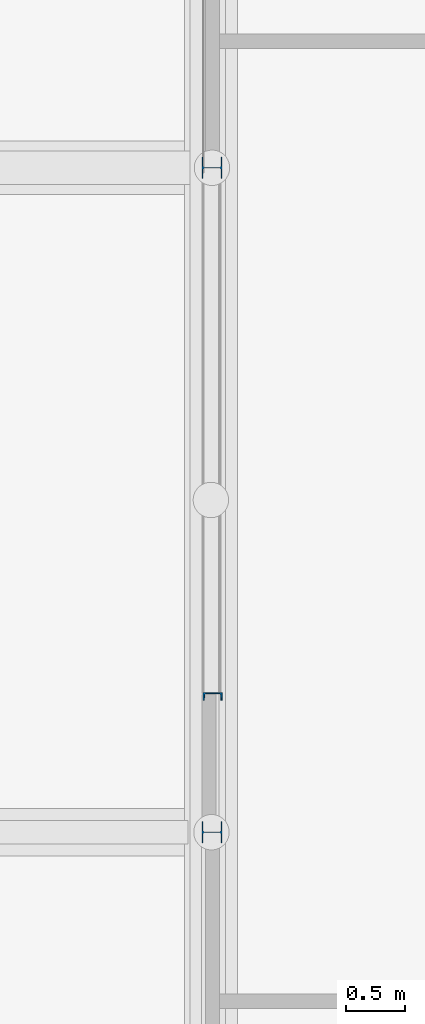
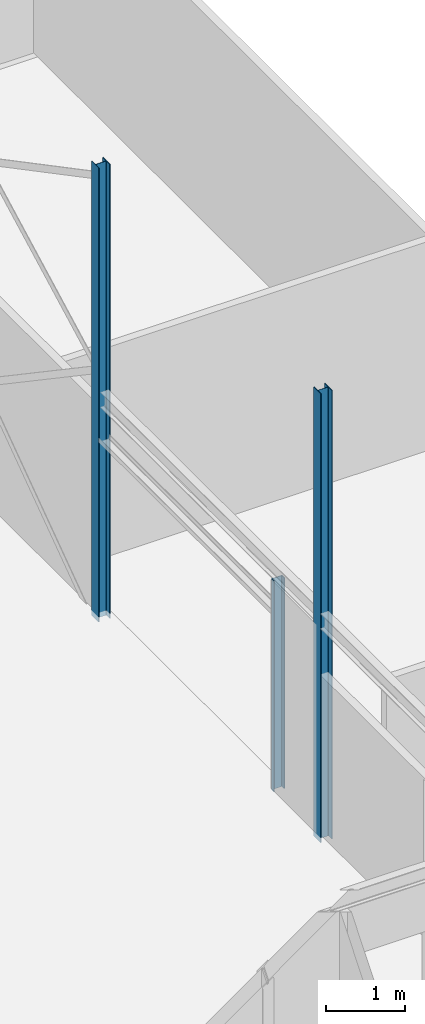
# One storey, part 6 of 17: 3 columns.
"""IFC2X3 building model written with IfcOpenShell, lengths in millimetres."""

from ifc_helpers import new_model, entity, si_unit, converted_unit, derived_unit, direction, frame, frame_2d, origin, place, context, subcontext, project, spatial, polyline, circle_curve, parameter, trimmed, segment, composite_curve, outline, extrude, source, transform, mapped, material, type_object, type_shapes, element, save


model = new_model("IFC2X3")

# Units and contexts
model_context = context("Model", 3, precision=0.01, world=origin(), true_north=direction((6.123031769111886e-17, 1.0)))
plan_context = context("Plan", 3, precision=0.01, world=origin(), true_north=direction((6.123031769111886e-17, 1.0)))
body_context = subcontext(model_context, "Body", "Model", "MODEL_VIEW")
ifc_project = project(units=[si_unit("LENGTHUNIT", "METRE", prefix="MILLI"), si_unit("AREAUNIT", "SQUARE_METRE"), si_unit("VOLUMEUNIT", "CUBIC_METRE"), converted_unit("PLANEANGLEUNIT", "DEGREE", entity("IfcPlaneAngleMeasure", 0.017453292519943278), si_unit("PLANEANGLEUNIT", "RADIAN"), dimensions=[0, 0, 0, 0, 0, 0, 0]), si_unit("MASSUNIT", "GRAM", prefix="KILO"), derived_unit("MASSDENSITYUNIT", [(si_unit("MASSUNIT", "GRAM", prefix="KILO"), 1), (si_unit("LENGTHUNIT", "METRE"), -3)]), derived_unit("IONCONCENTRATIONUNIT", [(si_unit("MASSUNIT", "GRAM", prefix="KILO"), 1), (si_unit("LENGTHUNIT", "METRE"), -3)]), derived_unit("MOMENTOFINERTIAUNIT", [(si_unit("LENGTHUNIT", "METRE"), 4)]), si_unit("TIMEUNIT", "SECOND"), si_unit("FREQUENCYUNIT", "HERTZ"), si_unit("THERMODYNAMICTEMPERATUREUNIT", "DEGREE_CELSIUS"), derived_unit("THERMALTRANSMITTANCEUNIT", [(si_unit("MASSUNIT", "GRAM", prefix="KILO"), 1), (si_unit("THERMODYNAMICTEMPERATUREUNIT", "KELVIN"), -1), (si_unit("TIMEUNIT", "SECOND"), -3)]), derived_unit("THERMALCONDUCTANCEUNIT", [(si_unit("MASSUNIT", "GRAM", prefix="KILO"), 1), (si_unit("THERMODYNAMICTEMPERATUREUNIT", "KELVIN"), -1), (si_unit("TIMEUNIT", "SECOND"), -3), (si_unit("LENGTHUNIT", "METRE"), 1)]), derived_unit("VOLUMETRICFLOWRATEUNIT", [(si_unit("LENGTHUNIT", "METRE", prefix="DECI"), 3), (si_unit("TIMEUNIT", "SECOND"), -1)]), derived_unit("MASSFLOWRATEUNIT", [(si_unit("MASSUNIT", "GRAM", prefix="KILO"), 1), (si_unit("TIMEUNIT", "SECOND"), -1)]), derived_unit("ROTATIONALFREQUENCYUNIT", [(si_unit("TIMEUNIT", "SECOND"), -1)]), si_unit("ELECTRICCURRENTUNIT", "AMPERE"), si_unit("ELECTRICVOLTAGEUNIT", "VOLT"), si_unit("POWERUNIT", "WATT"), si_unit("FORCEUNIT", "NEWTON", prefix="KILO"), si_unit("ILLUMINANCEUNIT", "LUX"), si_unit("LUMINOUSFLUXUNIT", "LUMEN"), si_unit("LUMINOUSINTENSITYUNIT", "CANDELA"), si_unit("ENERGYUNIT", "JOULE"), derived_unit("USERDEFINED", [(si_unit("MASSUNIT", "GRAM", prefix="KILO"), -1), (si_unit("LENGTHUNIT", "METRE"), -2), (si_unit("TIMEUNIT", "SECOND"), 3), (si_unit("LUMINOUSFLUXUNIT", "LUMEN"), 1)]), derived_unit("USERDEFINED", [(si_unit("MASSUNIT", "GRAM", prefix="KILO"), 1), (si_unit("TIMEUNIT", "SECOND"), -3), (si_unit("LENGTHUNIT", "METRE"), 3), (si_unit("ELECTRICCURRENTUNIT", "AMPERE"), -2)]), derived_unit("SOUNDPOWERUNIT", [(si_unit("MASSUNIT", "GRAM", prefix="KILO"), 1), (si_unit("TIMEUNIT", "SECOND"), -3), (si_unit("LENGTHUNIT", "METRE"), 2)]), derived_unit("SOUNDPRESSUREUNIT", [(si_unit("MASSUNIT", "GRAM", prefix="KILO"), 1), (si_unit("LENGTHUNIT", "METRE"), -1), (si_unit("TIMEUNIT", "SECOND"), -2)]), derived_unit("LINEARVELOCITYUNIT", [(si_unit("LENGTHUNIT", "METRE"), 1), (si_unit("TIMEUNIT", "SECOND"), -1)]), si_unit("PRESSUREUNIT", "PASCAL"), derived_unit("USERDEFINED", [(si_unit("MASSUNIT", "GRAM", prefix="KILO"), 1), (si_unit("LENGTHUNIT", "METRE"), -2), (si_unit("TIMEUNIT", "SECOND"), -2)]), derived_unit("LINEARFORCEUNIT", [(si_unit("MASSUNIT", "GRAM", prefix="KILO"), 1), (si_unit("TIMEUNIT", "SECOND"), -2)]), derived_unit("PLANARFORCEUNIT", [(si_unit("MASSUNIT", "GRAM", prefix="KILO"), 1), (si_unit("LENGTHUNIT", "METRE"), -1), (si_unit("TIMEUNIT", "SECOND"), -2)]), derived_unit("SPECIFICHEATCAPACITYUNIT", [(si_unit("THERMODYNAMICTEMPERATUREUNIT", "KELVIN"), -1), (si_unit("LENGTHUNIT", "METRE"), 2), (si_unit("TIMEUNIT", "SECOND"), -2)]), derived_unit("HEATFLUXDENSITYUNIT", [(si_unit("MASSUNIT", "GRAM", prefix="KILO"), 1), (si_unit("TIMEUNIT", "SECOND"), -3)]), derived_unit("HEATINGVALUEUNIT", [(si_unit("LENGTHUNIT", "METRE"), 2), (si_unit("TIMEUNIT", "SECOND"), -2)]), derived_unit("VAPORPERMEABILITYUNIT", [(si_unit("LENGTHUNIT", "METRE"), -1), (si_unit("TIMEUNIT", "SECOND"), 1)]), derived_unit("DYNAMICVISCOSITYUNIT", [(si_unit("MASSUNIT", "GRAM", prefix="KILO"), 1), (si_unit("TIMEUNIT", "SECOND"), -1), (si_unit("LENGTHUNIT", "METRE"), -1)]), derived_unit("THERMALEXPANSIONCOEFFICIENTUNIT", [(si_unit("THERMODYNAMICTEMPERATUREUNIT", "KELVIN"), -1)]), derived_unit("MODULUSOFELASTICITYUNIT", [(si_unit("MASSUNIT", "GRAM", prefix="KILO"), 1), (si_unit("LENGTHUNIT", "METRE"), -1), (si_unit("TIMEUNIT", "SECOND"), -2)]), derived_unit("ISOTHERMALMOISTURECAPACITYUNIT", [(si_unit("MASSUNIT", "GRAM", prefix="KILO"), -1), (si_unit("LENGTHUNIT", "METRE"), 3)]), derived_unit("MOISTUREDIFFUSIVITYUNIT", [(si_unit("TIMEUNIT", "SECOND"), -1), (si_unit("LENGTHUNIT", "METRE"), 2)]), derived_unit("MASSPERLENGTHUNIT", [(si_unit("MASSUNIT", "GRAM", prefix="KILO"), 1), (si_unit("LENGTHUNIT", "METRE"), -1)]), derived_unit("THERMALRESISTANCEUNIT", [(si_unit("MASSUNIT", "GRAM", prefix="KILO"), -1), (si_unit("TIMEUNIT", "SECOND"), 3), (si_unit("THERMODYNAMICTEMPERATUREUNIT", "KELVIN"), 1)]), derived_unit("ACCELERATIONUNIT", [(si_unit("LENGTHUNIT", "METRE"), 1), (si_unit("TIMEUNIT", "SECOND"), -2)]), derived_unit("ANGULARVELOCITYUNIT", [(si_unit("TIMEUNIT", "SECOND"), -1), (si_unit("PLANEANGLEUNIT", "RADIAN"), 1)]), derived_unit("LINEARSTIFFNESSUNIT", [(si_unit("MASSUNIT", "GRAM", prefix="KILO"), 1), (si_unit("TIMEUNIT", "SECOND"), -2)]), derived_unit("WARPINGCONSTANTUNIT", [(si_unit("LENGTHUNIT", "METRE"), 6)]), derived_unit("LINEARMOMENTUNIT", [(si_unit("MASSUNIT", "GRAM", prefix="KILO"), 1), (si_unit("LENGTHUNIT", "METRE"), 1), (si_unit("TIMEUNIT", "SECOND"), -2)]), derived_unit("TORQUEUNIT", [(si_unit("MASSUNIT", "GRAM", prefix="KILO"), 1), (si_unit("LENGTHUNIT", "METRE"), 2), (si_unit("TIMEUNIT", "SECOND"), -2)])], contexts=[model_context, plan_context])

# Site, building, storey
site_placement = place(None, origin())
site = spatial("IfcSite", under=ifc_project, at=site_placement, Name="Default", CompositionType="ELEMENT")
building_placement = place(site_placement, origin())
building = spatial("IfcBuilding", under=site, at=building_placement, CompositionType="ELEMENT")
storey_placement = place(building_placement, origin())
storey = spatial("IfcBuildingStorey", under=building, at=storey_placement, Name="00 begane grond", CompositionType="ELEMENT", Elevation=0.0)

# Columns
ifc_material = material(Name="constructiestaal S235")
column_type_1 = type_object("IfcColumnType", Name="28_SCO_TLB_HEA kolom_dw:HE180A (S235)", PredefinedType="COLUMN", material=ifc_material)
shared_shape_1 = source(origin(), body_context, "Body", "SweptSolid", [
    extrude(outline(composite_curve([segment(polyline([(-90.0, -76.0), (-90.0, -85.49999999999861)]), True, "CONTINUOUS"), segment(polyline([(-90.0, -85.49999999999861), (90.0, -85.49999999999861)]), True, "CONTINUOUS"), segment(polyline([(90.0, -85.49999999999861), (90.0, -76.0)]), True, "CONTINUOUS"), segment(polyline([(90.0, -76.0), (18.0, -76.0)]), True, "CONTINUOUS"), segment(trimmed(circle_curve(frame_2d((18.0, -61.0), x_axis=(1.0, 0.0)), 15.0), [parameter(180.00000000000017)], [parameter(269.9999999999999)], True, "PARAMETER"), False, "CONTINUOUS"), segment(polyline([(3.0, -61.0), (3.0, 61.0)]), True, "CONTINUOUS"), segment(trimmed(circle_curve(frame_2d((18.0, 61.0), x_axis=(1.0, 0.0)), 15.0), [parameter(90.00000000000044)], [parameter(180.0000000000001)], True, "PARAMETER"), False, "CONTINUOUS"), segment(polyline([(18.0, 76.0), (90.0, 76.0)]), True, "CONTINUOUS"), segment(polyline([(90.0, 76.0), (90.0, 85.49999999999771)]), True, "CONTINUOUS"), segment(polyline([(90.0, 85.49999999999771), (-90.0, 85.49999999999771)]), True, "CONTINUOUS"), segment(polyline([(-90.0, 85.49999999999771), (-90.0, 76.0)]), True, "CONTINUOUS"), segment(polyline([(-90.0, 76.0), (-18.0, 76.0)]), True, "CONTINUOUS"), segment(trimmed(circle_curve(frame_2d((-18.0, 61.0), x_axis=(1.0, 0.0)), 15.0), [parameter(0.0)], [parameter(90.00000000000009)], True, "PARAMETER"), False, "CONTINUOUS"), segment(polyline([(-3.0, 61.0), (-3.0, -61.0)]), True, "CONTINUOUS"), segment(trimmed(circle_curve(frame_2d((-18.0, -61.0), x_axis=(1.0, 0.0)), 15.0), [parameter(269.9999999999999)], [parameter(0.0)], True, "PARAMETER"), False, "CONTINUOUS"), segment(polyline([(-18.0, -76.0), (-90.0, -76.0)]), True, "CONTINUOUS")], self_intersect=False)), frame((0.0, 0.0, -150.0), z_axis=(0.0, 0.0, -1.0), x_axis=(-1.0, 0.0, 0.0)), (0.0, 0.0, -1.0), 6935.0),
])
type_shapes(column_type_1, [shared_shape_1])
column_1_placement = place(storey_placement, frame((50500.69293735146, 21872.670340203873, 0.0), z_axis=(0.0, 0.0, 1.0), x_axis=(0.0, -1.0, 0.0)))
element("IfcColumn", 1, at=column_1_placement, inside=storey, type_object=column_type_1, material=ifc_material, Name="28_SCO_TLB_HEA kolom_dw:HE180A (S235)", ObjectType="28_SCO_TLB_HEA kolom_dw:HE180A (S235)", context=body_context, shape_type="MappedRepresentation", body=[
    mapped(shared_shape_1, transform((0.0, 0.0, 0.0), scale=1.0)),
])
column_type_2 = type_object("IfcColumnType", Name="28_SCO_TLB_HEA kolom_dw:HE180A (S235)", PredefinedType="COLUMN", material=ifc_material)
shared_shape_2 = source(origin(), body_context, "Body", "SweptSolid", [
    extrude(outline(composite_curve([segment(polyline([(-90.0, -76.0), (-90.0, -85.49999999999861)]), True, "CONTINUOUS"), segment(polyline([(-90.0, -85.49999999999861), (90.0, -85.49999999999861)]), True, "CONTINUOUS"), segment(polyline([(90.0, -85.49999999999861), (90.0, -76.0)]), True, "CONTINUOUS"), segment(polyline([(90.0, -76.0), (18.0, -76.0)]), True, "CONTINUOUS"), segment(trimmed(circle_curve(frame_2d((18.0, -61.0), x_axis=(1.0, 0.0)), 15.0), [parameter(180.00000000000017)], [parameter(269.9999999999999)], True, "PARAMETER"), False, "CONTINUOUS"), segment(polyline([(3.0, -61.0), (3.0, 61.0)]), True, "CONTINUOUS"), segment(trimmed(circle_curve(frame_2d((18.0, 61.0), x_axis=(1.0, 0.0)), 15.0), [parameter(90.00000000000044)], [parameter(180.0000000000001)], True, "PARAMETER"), False, "CONTINUOUS"), segment(polyline([(18.0, 76.0), (90.0, 76.0)]), True, "CONTINUOUS"), segment(polyline([(90.0, 76.0), (90.0, 85.49999999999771)]), True, "CONTINUOUS"), segment(polyline([(90.0, 85.49999999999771), (-90.0, 85.49999999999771)]), True, "CONTINUOUS"), segment(polyline([(-90.0, 85.49999999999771), (-90.0, 76.0)]), True, "CONTINUOUS"), segment(polyline([(-90.0, 76.0), (-18.0, 76.0)]), True, "CONTINUOUS"), segment(trimmed(circle_curve(frame_2d((-18.0, 61.0), x_axis=(1.0, 0.0)), 15.0), [parameter(0.0)], [parameter(90.00000000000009)], True, "PARAMETER"), False, "CONTINUOUS"), segment(polyline([(-3.0, 61.0), (-3.0, -61.0)]), True, "CONTINUOUS"), segment(trimmed(circle_curve(frame_2d((-18.0, -61.0), x_axis=(1.0, 0.0)), 15.0), [parameter(269.9999999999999)], [parameter(0.0)], True, "PARAMETER"), False, "CONTINUOUS"), segment(polyline([(-18.0, -76.0), (-90.0, -76.0)]), True, "CONTINUOUS")], self_intersect=False)), frame((0.0, 0.0, -150.0), z_axis=(0.0, 0.0, -1.0), x_axis=(-1.0, 0.0, 0.0)), (0.0, 0.0, -1.0), 7016.999999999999),
])
type_shapes(column_type_2, [shared_shape_2])
column_2_placement = place(storey_placement, frame((50500.692937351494, 27492.67034020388, 0.0), z_axis=(0.0, 0.0, 1.0), x_axis=(0.0, -1.0, 0.0)))
element("IfcColumn", 2, at=column_2_placement, inside=storey, type_object=column_type_2, material=ifc_material, Name="28_SCO_TLB_HEA kolom_dw:HE180A (S235)", ObjectType="28_SCO_TLB_HEA kolom_dw:HE180A (S235)", context=body_context, shape_type="MappedRepresentation", body=[
    mapped(shared_shape_2, transform((0.0, 0.0, 0.0), scale=1.0)),
])
column_type_3 = type_object("IfcColumnType", Name="28_SCO_TLB_UNP kolom_dw:UNP160 (S235)", PredefinedType="COLUMN", material=ifc_material)
shared_shape_3 = source(origin(), body_context, "Body", "SweptSolid", [
    extrude(outline(composite_curve([segment(polyline([(-35.75000000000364, -79.93760274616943), (29.25, -79.93760274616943)]), True, "CONTINUOUS"), segment(polyline([(29.25, -79.93760274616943), (29.25, -75.21770177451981)]), True, "CONTINUOUS"), segment(trimmed(circle_curve(frame_2d((23.749999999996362, -75.21770177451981), x_axis=(1.0, 0.0)), 5.5), [parameter(1.5266662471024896e-13)], [parameter(90.00000000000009)], True, "PARAMETER"), True, "CONTINUOUS"), segment(polyline([(23.749999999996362, -69.71770177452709), (-18.250000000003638, -67.32541273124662)]), True, "CONTINUOUS"), segment(trimmed(circle_curve(frame_2d((-18.250000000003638, -57.325412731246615), x_axis=(1.0, 0.0)), 10.0), [parameter(179.9999999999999)], [parameter(269.99999999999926)], True, "PARAMETER"), False, "CONTINUOUS"), segment(polyline([(-28.25, -57.32541273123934), (-28.249999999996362, 56.81086063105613)]), True, "CONTINUOUS"), segment(trimmed(circle_curve(frame_2d((-18.25, 56.810860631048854), x_axis=(1.0, 0.0)), 10.0), [parameter(90.00000000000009)], [parameter(180.0)], True, "PARAMETER"), False, "CONTINUOUS"), segment(polyline([(-18.25, 66.81086063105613), (23.750000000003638, 70.10745936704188)]), True, "CONTINUOUS"), segment(trimmed(circle_curve(frame_2d((23.75, 75.60745936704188), x_axis=(1.0, 0.0)), 5.5), [parameter(269.9999999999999)], [parameter(0.0)], True, "PARAMETER"), True, "CONTINUOUS"), segment(polyline([(29.250000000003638, 75.60745936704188), (29.250000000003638, 80.06239725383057)]), True, "CONTINUOUS"), segment(polyline([(29.250000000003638, 80.06239725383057), (-35.74999999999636, 80.06239725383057)]), True, "CONTINUOUS"), segment(polyline([(-35.74999999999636, 80.06239725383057), (-35.75000000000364, -79.93760274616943)]), True, "CONTINUOUS")], self_intersect=False)), frame((50506.130540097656, 23016.920485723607, -100.0), z_axis=(0.0, 0.0, 1.0), x_axis=(0.0, -1.0, 0.0)), (0.0, 0.0, 1.0), 3260.0000000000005),
])
type_shapes(column_type_3, [shared_shape_3])
column_3_placement = place(storey_placement, origin())
element("IfcColumn", 3, at=column_3_placement, inside=storey, type_object=column_type_3, material=ifc_material, Name="28_SCO_TLB_UNP kolom_dw:UNP160 (S235)", ObjectType="28_SCO_TLB_UNP kolom_dw:UNP160 (S235)", context=body_context, shape_type="MappedRepresentation", body=[
    mapped(shared_shape_3, transform((0.0, 0.0, 0.0), scale=1.0)),
])

save(model, "model.ifc")
